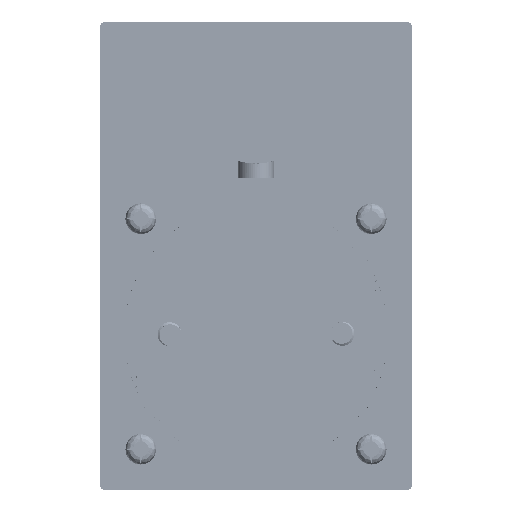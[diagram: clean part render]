
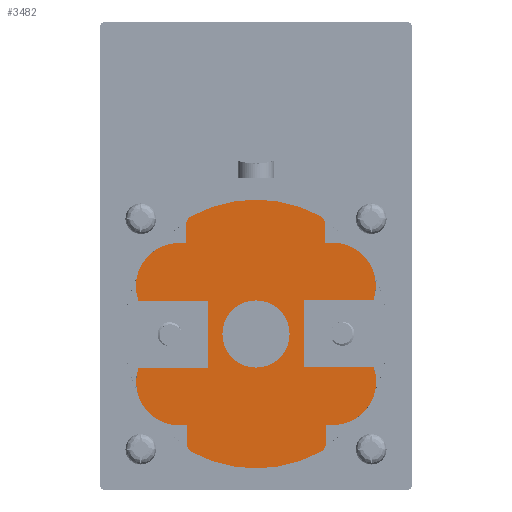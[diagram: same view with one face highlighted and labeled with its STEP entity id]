
A CAD part, front view. The second image highlights one B-rep face of the part: STEP entity #3482.
In plain terms, the highlighted planar face has unit normal (0, -1, 0).
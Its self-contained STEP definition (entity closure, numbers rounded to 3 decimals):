
#1240=FACE_BOUND('',#8931,.T.);
#1241=FACE_BOUND('',#8932,.T.);
#3482=ADVANCED_FACE('',(#1240,#1241),#5573,.F.);
#5573=PLANE('',#40528);
#8931=EDGE_LOOP('',(#14039,#14040,#14041,#14042,#14043,#14044,#14045,#14046,
#14047,#14048,#14049,#14050,#14051,#14052,#14053,#14054,#14055,#14056,#14057,
#14058,#14059,#14060,#14061,#14062,#14063));
#8932=EDGE_LOOP('',(#14064));
#11344=CIRCLE('',#40469,7.);
#11350=CIRCLE('',#40485,8.96);
#11353=CIRCLE('',#40490,2.);
#11355=CIRCLE('',#40493,28.);
#11358=CIRCLE('',#40497,2.);
#11359=CIRCLE('',#40501,9.);
#11361=CIRCLE('',#40504,9.);
#11365=CIRCLE('',#40511,2.);
#11367=CIRCLE('',#40514,28.);
#11370=CIRCLE('',#40518,2.);
#11371=CIRCLE('',#40522,9.);
#11373=CIRCLE('',#40525,9.);
#14039=ORIENTED_EDGE('',*,*,#29215,.F.);
#14040=ORIENTED_EDGE('',*,*,#29344,.T.);
#14041=ORIENTED_EDGE('',*,*,#29343,.T.);
#14042=ORIENTED_EDGE('',*,*,#29339,.T.);
#14043=ORIENTED_EDGE('',*,*,#29296,.T.);
#14044=ORIENTED_EDGE('',*,*,#29292,.T.);
#14045=ORIENTED_EDGE('',*,*,#29289,.T.);
#14046=ORIENTED_EDGE('',*,*,#29285,.T.);
#14047=ORIENTED_EDGE('',*,*,#29242,.T.);
#14048=ORIENTED_EDGE('',*,*,#29239,.T.);
#14049=ORIENTED_EDGE('',*,*,#29457,.T.);
#14050=ORIENTED_EDGE('',*,*,#29226,.F.);
#14051=ORIENTED_EDGE('',*,*,#29221,.F.);
#14052=ORIENTED_EDGE('',*,*,#29228,.F.);
#14053=ORIENTED_EDGE('',*,*,#29454,.T.);
#14054=ORIENTED_EDGE('',*,*,#29453,.T.);
#14055=ORIENTED_EDGE('',*,*,#29450,.T.);
#14056=ORIENTED_EDGE('',*,*,#29407,.T.);
#14057=ORIENTED_EDGE('',*,*,#29403,.T.);
#14058=ORIENTED_EDGE('',*,*,#29400,.T.);
#14059=ORIENTED_EDGE('',*,*,#29396,.T.);
#14060=ORIENTED_EDGE('',*,*,#29353,.T.);
#14061=ORIENTED_EDGE('',*,*,#29347,.T.);
#14062=ORIENTED_EDGE('',*,*,#29213,.F.);
#14063=ORIENTED_EDGE('',*,*,#29208,.F.);
#14064=ORIENTED_EDGE('',*,*,#29207,.F.);
#25089=VERTEX_POINT('',#85429);
#25090=VERTEX_POINT('',#85432);
#25091=VERTEX_POINT('',#85433);
#25095=VERTEX_POINT('',#85443);
#25096=VERTEX_POINT('',#85447);
#25100=VERTEX_POINT('',#85459);
#25101=VERTEX_POINT('',#85460);
#25105=VERTEX_POINT('',#85470);
#25106=VERTEX_POINT('',#85474);
#25110=VERTEX_POINT('',#85489);
#25115=VERTEX_POINT('',#85507);
#25116=VERTEX_POINT('',#85511);
#25118=VERTEX_POINT('',#85517);
#25160=VERTEX_POINT('',#85603);
#25163=VERTEX_POINT('',#85611);
#25165=VERTEX_POINT('',#85617);
#25168=VERTEX_POINT('',#85625);
#25210=VERTEX_POINT('',#85714);
#25214=VERTEX_POINT('',#85730);
#25217=VERTEX_POINT('',#85738);
#25219=VERTEX_POINT('',#85744);
#25261=VERTEX_POINT('',#85830);
#25264=VERTEX_POINT('',#85838);
#25266=VERTEX_POINT('',#85844);
#25269=VERTEX_POINT('',#85852);
#25311=VERTEX_POINT('',#85938);
#29207=EDGE_CURVE('',#25089,#25089,#11344,.T.);
#29208=EDGE_CURVE('',#25090,#25091,#34812,.T.);
#29213=EDGE_CURVE('',#25091,#25095,#34817,.T.);
#29215=EDGE_CURVE('',#25096,#25090,#34819,.T.);
#29221=EDGE_CURVE('',#25100,#25101,#34823,.T.);
#29226=EDGE_CURVE('',#25101,#25105,#34828,.T.);
#29228=EDGE_CURVE('',#25106,#25100,#34830,.T.);
#29239=EDGE_CURVE('',#25110,#25115,#34835,.T.);
#29242=EDGE_CURVE('',#25116,#25110,#11350,.T.);
#29285=EDGE_CURVE('',#25118,#25116,#34879,.T.);
#29289=EDGE_CURVE('',#25160,#25118,#11353,.T.);
#29292=EDGE_CURVE('',#25163,#25160,#11355,.T.);
#29296=EDGE_CURVE('',#25165,#25163,#11358,.T.);
#29339=EDGE_CURVE('',#25168,#25165,#34925,.T.);
#29343=EDGE_CURVE('',#25210,#25168,#34927,.T.);
#29344=EDGE_CURVE('',#25096,#25210,#11359,.T.);
#29347=EDGE_CURVE('',#25214,#25095,#11361,.T.);
#29353=EDGE_CURVE('',#25217,#25214,#34933,.T.);
#29396=EDGE_CURVE('',#25219,#25217,#34976,.T.);
#29400=EDGE_CURVE('',#25261,#25219,#11365,.T.);
#29403=EDGE_CURVE('',#25264,#25261,#11367,.T.);
#29407=EDGE_CURVE('',#25266,#25264,#11370,.T.);
#29450=EDGE_CURVE('',#25269,#25266,#35022,.T.);
#29453=EDGE_CURVE('',#25311,#25269,#35025,.T.);
#29454=EDGE_CURVE('',#25106,#25311,#11371,.T.);
#29457=EDGE_CURVE('',#25115,#25105,#11373,.T.);
#34812=LINE('',#85431,#37670);
#34817=LINE('',#85442,#37675);
#34819=LINE('',#85446,#37677);
#34823=LINE('',#85458,#37681);
#34828=LINE('',#85469,#37686);
#34830=LINE('',#85473,#37688);
#34835=LINE('',#85508,#37693);
#34879=LINE('',#85600,#37737);
#34925=LINE('',#85708,#37783);
#34927=LINE('',#85722,#37785);
#34933=LINE('',#85741,#37791);
#34976=LINE('',#85827,#37834);
#35022=LINE('',#85935,#37880);
#35025=LINE('',#85941,#37883);
#37670=VECTOR('',#44437,1.);
#37675=VECTOR('',#44444,1.);
#37677=VECTOR('',#44448,1.);
#37681=VECTOR('',#44460,1.);
#37686=VECTOR('',#44467,1.);
#37688=VECTOR('',#44471,1.);
#37693=VECTOR('',#44484,1.);
#37737=VECTOR('',#44536,1.);
#37783=VECTOR('',#44606,1.);
#37785=VECTOR('',#44610,1.);
#37791=VECTOR('',#44630,1.);
#37834=VECTOR('',#44675,1.);
#37880=VECTOR('',#44745,1.);
#37883=VECTOR('',#44750,1.);
#40469=AXIS2_PLACEMENT_3D('',#85428,#44433,#44434);
#40485=AXIS2_PLACEMENT_3D('',#85514,#44490,#44491);
#40490=AXIS2_PLACEMENT_3D('',#85608,#44544,#44545);
#40493=AXIS2_PLACEMENT_3D('',#85614,#44551,#44552);
#40497=AXIS2_PLACEMENT_3D('',#85622,#44560,#44561);
#40501=AXIS2_PLACEMENT_3D('',#85724,#44613,#44614);
#40504=AXIS2_PLACEMENT_3D('',#85729,#44620,#44621);
#40511=AXIS2_PLACEMENT_3D('',#85835,#44683,#44684);
#40514=AXIS2_PLACEMENT_3D('',#85841,#44690,#44691);
#40518=AXIS2_PLACEMENT_3D('',#85849,#44699,#44700);
#40522=AXIS2_PLACEMENT_3D('',#85943,#44753,#44754);
#40525=AXIS2_PLACEMENT_3D('',#85948,#44760,#44761);
#40528=AXIS2_PLACEMENT_3D('',#85953,#44767,#44768);
#44433=DIRECTION('',(0.,-1.,0.));
#44434=DIRECTION('',(-1.,0.,-0.003));
#44437=DIRECTION('',(-0.003,0.,1.));
#44444=DIRECTION('',(-1.,0.,-0.003));
#44448=DIRECTION('',(1.,0.,0.003));
#44460=DIRECTION('',(0.003,0.,-1.));
#44467=DIRECTION('',(1.,0.,0.003));
#44471=DIRECTION('',(-1.,0.,-0.003));
#44484=DIRECTION('',(1.,0.,0.003));
#44490=DIRECTION('',(0.,-1.,0.));
#44491=DIRECTION('',(0.,0.,-1.));
#44536=DIRECTION('',(-0.003,0.,1.));
#44544=DIRECTION('',(0.,-1.,0.));
#44545=DIRECTION('',(1.,0.,0.003));
#44551=DIRECTION('',(0.,-1.,0.));
#44552=DIRECTION('',(1.,0.,0.003));
#44560=DIRECTION('',(0.,-1.,0.));
#44561=DIRECTION('',(1.,0.,0.003));
#44606=DIRECTION('',(0.003,0.,-1.));
#44610=DIRECTION('',(1.,0.,0.003));
#44613=DIRECTION('',(0.,-1.,0.));
#44614=DIRECTION('',(-0.89,0.,0.456));
#44620=DIRECTION('',(0.,-1.,0.));
#44621=DIRECTION('',(-1.,0.,-0.003));
#44630=DIRECTION('',(-1.,0.,-0.003));
#44675=DIRECTION('',(0.003,0.,-1.));
#44683=DIRECTION('',(0.,-1.,0.));
#44684=DIRECTION('',(1.,0.,0.003));
#44690=DIRECTION('',(0.,-1.,0.));
#44691=DIRECTION('',(1.,0.,0.003));
#44699=DIRECTION('',(0.,-1.,0.));
#44700=DIRECTION('',(1.,0.,0.003));
#44745=DIRECTION('',(-0.003,0.,1.));
#44750=DIRECTION('',(-1.,0.,-0.003));
#44753=DIRECTION('',(0.,-1.,0.));
#44754=DIRECTION('',(1.,0.,0.003));
#44760=DIRECTION('',(0.,-1.,0.));
#44761=DIRECTION('',(0.,0.,-1.));
#44767=DIRECTION('',(0.,1.,0.));
#44768=DIRECTION('',(0.,0.,1.));
#85428=CARTESIAN_POINT('',(0.,-162.1,0.));
#85429=CARTESIAN_POINT('',(-7.,-162.1,-0.018));
#85431=CARTESIAN_POINT('',(-9.982,-162.1,-7.026));
#85432=CARTESIAN_POINT('',(-9.982,-162.1,-7.026));
#85433=CARTESIAN_POINT('',(-10.018,-162.1,6.974));
#85442=CARTESIAN_POINT('',(-10.018,-162.1,6.974));
#85443=CARTESIAN_POINT('',(-24.503,-162.1,6.937));
#85446=CARTESIAN_POINT('',(-34.164,-162.1,-7.088));
#85447=CARTESIAN_POINT('',(-24.468,-162.1,-7.063));
#85458=CARTESIAN_POINT('',(9.982,-162.1,7.026));
#85459=CARTESIAN_POINT('',(9.982,-162.1,7.026));
#85460=CARTESIAN_POINT('',(10.018,-162.1,-6.974));
#85469=CARTESIAN_POINT('',(10.018,-162.1,-6.974));
#85470=CARTESIAN_POINT('',(24.503,-162.1,-6.937));
#85473=CARTESIAN_POINT('',(34.164,-162.1,7.088));
#85474=CARTESIAN_POINT('',(24.467,-162.1,7.063));
#85489=CARTESIAN_POINT('',(15.978,-162.1,-18.959));
#85507=CARTESIAN_POINT('',(16.119,-162.1,-18.958));
#85508=CARTESIAN_POINT('',(23.752,-162.1,-18.938));
#85511=CARTESIAN_POINT('',(14.548,-162.1,-18.837));
#85514=CARTESIAN_POINT('',(16.02,-162.1,-9.999));
#85517=CARTESIAN_POINT('',(14.558,-162.1,-22.761));
#85600=CARTESIAN_POINT('',(14.558,-162.1,-22.761));
#85603=CARTESIAN_POINT('',(13.525,-162.1,-24.517));
#85608=CARTESIAN_POINT('',(12.558,-162.1,-22.766));
#85611=CARTESIAN_POINT('',(-13.398,-162.1,-24.586));
#85614=CARTESIAN_POINT('',(0.,-162.1,0.));
#85617=CARTESIAN_POINT('',(-14.441,-162.1,-22.835));
#85622=CARTESIAN_POINT('',(-12.441,-162.1,-22.83));
#85625=CARTESIAN_POINT('',(-14.451,-162.1,-19.037));
#85708=CARTESIAN_POINT('',(-14.451,-162.1,-19.037));
#85714=CARTESIAN_POINT('',(-15.951,-162.1,-19.041));
#85722=CARTESIAN_POINT('',(23.753,-162.1,-18.934));
#85724=CARTESIAN_POINT('',(-15.974,-162.1,-10.041));
#85729=CARTESIAN_POINT('',(-16.026,-162.1,9.959));
#85730=CARTESIAN_POINT('',(-16.049,-162.1,18.959));
#85738=CARTESIAN_POINT('',(-14.549,-162.1,18.963));
#85741=CARTESIAN_POINT('',(-14.549,-162.1,18.963));
#85744=CARTESIAN_POINT('',(-14.558,-162.1,22.761));
#85827=CARTESIAN_POINT('',(-14.558,-162.1,22.761));
#85830=CARTESIAN_POINT('',(-13.525,-162.1,24.517));
#85835=CARTESIAN_POINT('',(-12.558,-162.1,22.766));
#85838=CARTESIAN_POINT('',(13.398,-162.1,24.586));
#85841=CARTESIAN_POINT('',(0.,-162.1,0.));
#85844=CARTESIAN_POINT('',(14.441,-162.1,22.835));
#85849=CARTESIAN_POINT('',(12.441,-162.1,22.83));
#85852=CARTESIAN_POINT('',(14.451,-162.1,19.037));
#85935=CARTESIAN_POINT('',(14.451,-162.1,19.037));
#85938=CARTESIAN_POINT('',(15.951,-162.1,19.041));
#85941=CARTESIAN_POINT('',(15.951,-162.1,19.041));
#85943=CARTESIAN_POINT('',(15.974,-162.1,10.041));
#85948=CARTESIAN_POINT('',(16.026,-162.1,-9.959));
#85953=CARTESIAN_POINT('',(23.741,-162.1,-14.593));
